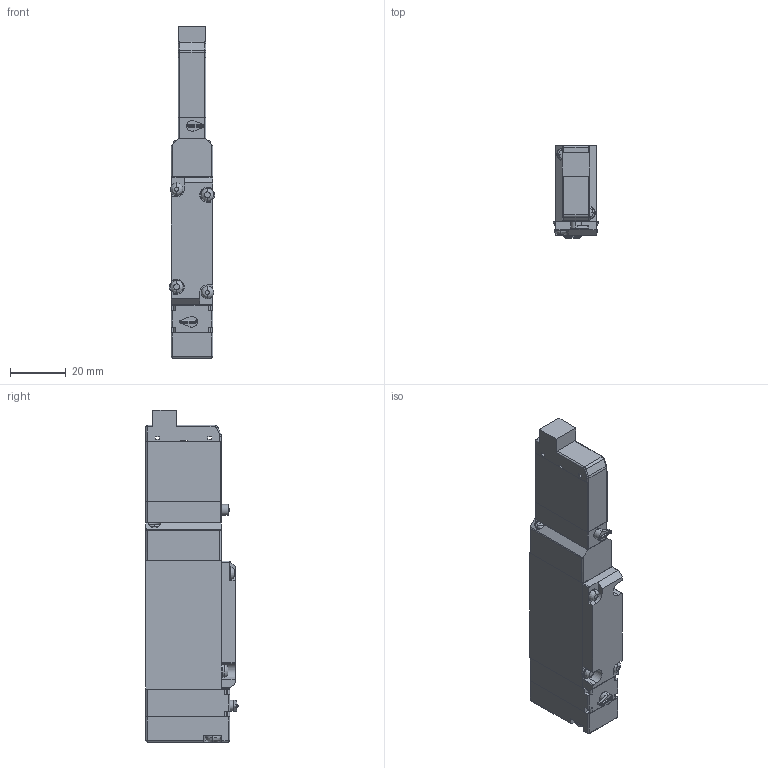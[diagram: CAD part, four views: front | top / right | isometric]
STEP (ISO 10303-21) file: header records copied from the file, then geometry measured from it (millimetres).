
FILE_DESCRIPTION( (''), '2;1');
FILE_NAME ('CVICAD02.3360.F15T3-R-A1-PN_21854.stp','2021-07-12T19:14:40',(''),(''),'spGate 12.6.6','','');
FILE_SCHEMA (('AUTOMOTIVE_DESIGN'));
Length unit declared in the file: millimetre
Products named in the file (8): Assembly; CVICAD02-prt0; CVICAD02-prt1; CVICAD02-prt2; CVICAD02-prt3; CVICAD02-prt4; CVICAD02-prt5; CVICAD02-prt6
Assembly tree (7 placements, depth 2):
  Assembly
    CVICAD02-prt0
    CVICAD02-prt1
    CVICAD02-prt2
    CVICAD02-prt3
    CVICAD02-prt4
    CVICAD02-prt5
    CVICAD02-prt6
Bounding box: 16.2 x 32.99 x 119 mm (x, y, z)
Volume: 44646 mm3; surface area: 17213.2 mm2
Topology: 7 solids, 7 shells, 335 faces, 848 edges, 529 vertices
Faces by surface type: plane 166, cylinder 132, bspline 24, sphere 13
Entity records: 17216 total; most frequent: CARTESIAN_POINT 2409, ORIENTED_EDGE 1662, DIRECTION 1627, COLOUR_RGB 1173, PRESENTATION_STYLE_ASSIGNMENT 1173, STYLED_ITEM 1173, EDGE_CURVE 831, DRAUGHTING_PRE_DEFINED_CURVE_FONT 831
